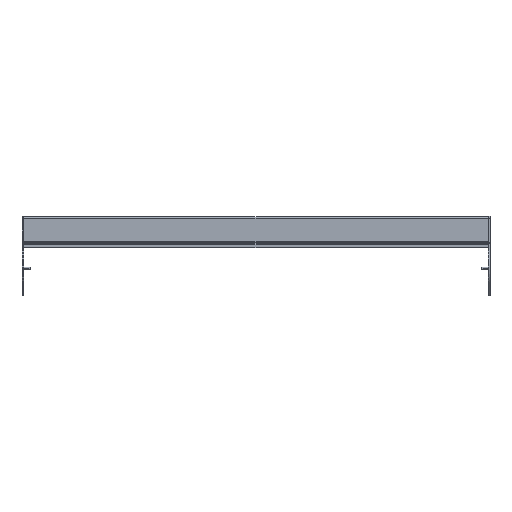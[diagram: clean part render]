
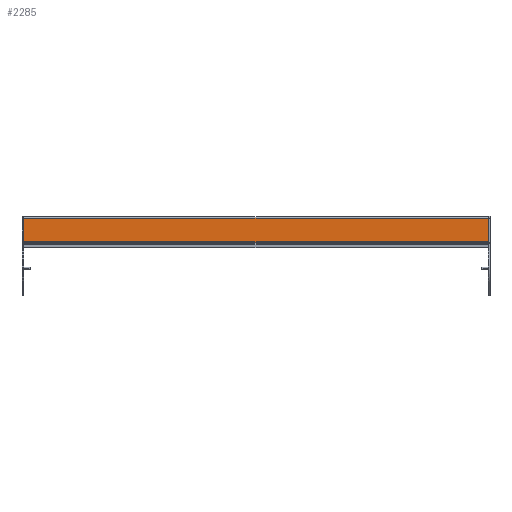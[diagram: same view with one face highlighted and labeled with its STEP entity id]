
A CAD part, top view. The second image highlights one B-rep face of the part: STEP entity #2285.
In plain terms, the highlighted planar face has unit normal (0, 0, 1) as drawn and (1, 0, 0) by its records, which use the part's own axes.
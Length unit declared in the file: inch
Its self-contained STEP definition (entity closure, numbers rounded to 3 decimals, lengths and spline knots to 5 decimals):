
#197=DIRECTION('',(0.,1.,0.));
#198=VECTOR('',#197,1.81445);
#199=CARTESIAN_POINT('',(0.683,-0.84545,-18.118));
#200=LINE('',#199,#198);
#303=DIRECTION('',(0.,1.,0.));
#304=VECTOR('',#303,1.81445);
#305=CARTESIAN_POINT('',(0.683,-0.84545,18.118));
#306=LINE('',#305,#304);
#646=DIRECTION('',(0.,0.,1.));
#647=VECTOR('',#646,36.236);
#648=CARTESIAN_POINT('',(0.683,0.969,-18.118));
#649=LINE('',#648,#647);
#659=DIRECTION('',(0.,0.,-1.));
#660=VECTOR('',#659,36.236);
#661=CARTESIAN_POINT('',(0.683,-0.84545,18.118));
#662=LINE('',#661,#660);
#1270=CARTESIAN_POINT('',(0.683,-0.84545,-18.118));
#1271=CARTESIAN_POINT('',(0.683,0.969,-18.118));
#1272=VERTEX_POINT('',#1270);
#1273=VERTEX_POINT('',#1271);
#1274=CARTESIAN_POINT('',(0.683,-0.84545,18.118));
#1275=CARTESIAN_POINT('',(0.683,0.969,18.118));
#1276=VERTEX_POINT('',#1274);
#1277=VERTEX_POINT('',#1275);
#2273=CARTESIAN_POINT('',(0.683,-0.86334,-18.118));
#2274=DIRECTION('',(1.,0.,0.));
#2275=DIRECTION('',(0.,1.,0.));
#2276=AXIS2_PLACEMENT_3D('',#2273,#2274,#2275);
#2277=PLANE('',#2276);
#2278=ORIENTED_EDGE('',*,*,#1631,.F.);
#2280=ORIENTED_EDGE('',*,*,#2279,.F.);
#2281=ORIENTED_EDGE('',*,*,#1734,.T.);
#2282=ORIENTED_EDGE('',*,*,#2266,.F.);
#2283=EDGE_LOOP('',(#2278,#2280,#2281,#2282));
#2284=FACE_OUTER_BOUND('',#2283,.F.);
#1631=EDGE_CURVE('',#1272,#1273,#200,.T.);
#1734=EDGE_CURVE('',#1276,#1277,#306,.T.);
#2266=EDGE_CURVE('',#1273,#1277,#649,.T.);
#2279=EDGE_CURVE('',#1276,#1272,#662,.T.);
#2285=ADVANCED_FACE('',(#2284),#2277,.T.);
